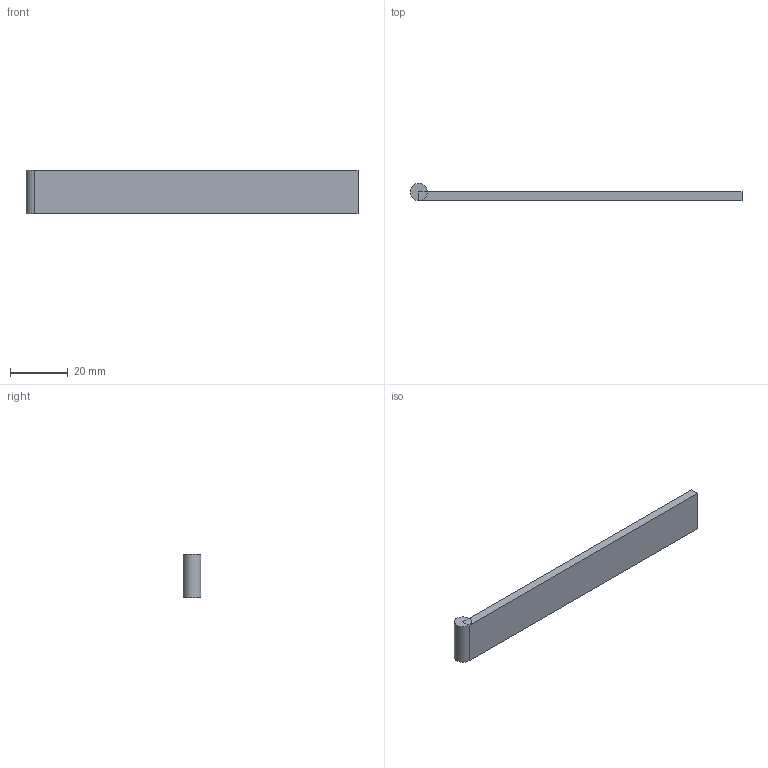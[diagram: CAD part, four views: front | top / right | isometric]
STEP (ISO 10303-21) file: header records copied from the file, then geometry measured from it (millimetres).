
FILE_DESCRIPTION(('Open CASCADE Model'),'2;1');
FILE_NAME('Open CASCADE Shape Model','2026-10-04T02:31:34',('Author'),( 'Open CASCADE'),'Open CASCADE STEP processor 8.0','Open CASCADE 8.0' ,'Unknown');
FILE_SCHEMA(('AUTOMOTIVE_DESIGN { 1 0 10303 214 1 1 1 1 }'));
Length unit declared in the file: millimetre
Products named in the file (1): Open CASCADE STEP translator 8.0 24
Bounding box: 115 x 6 x 15 mm (x, y, z)
Volume: 5358.1 mm3; surface area: 4286.5 mm2
Topology: 1 solids, 1 shells, 10 faces, 18 edges, 10 vertices
Faces by surface type: plane 9, cylinder 1
Entity records: 482 total; most frequent: DIRECTION 80, CARTESIAN_POINT 75, LINE 44, VECTOR 44, ORIENTED_EDGE 36, PCURVE 36, DEFINITIONAL_REPRESENTATION 36, EDGE_CURVE 18
